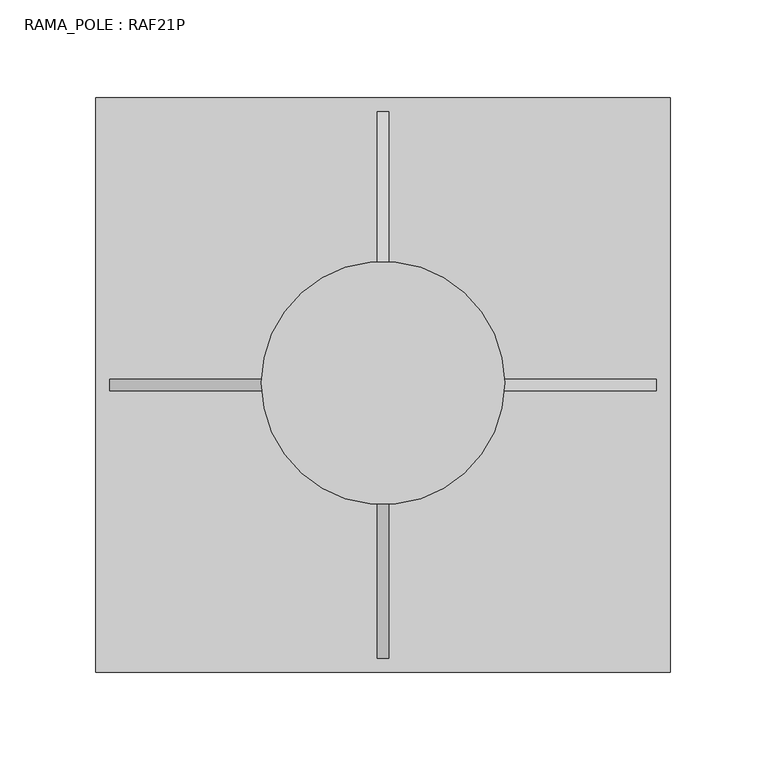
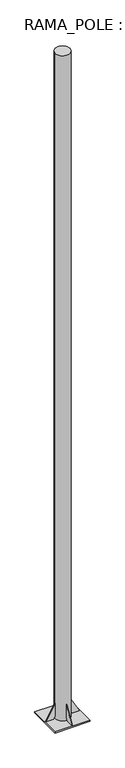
"""IFC4 building model written with IfcOpenShell, lengths in millimetres: light fixture geometry, RAMA_POLE : RAF21P."""

from ifc_helpers import new_model, si_unit, point, frame, origin, origin_2d, place, context, project, spatial, polyline, circle_curve, trimmed, segment, composite_curve, outline, extrude, source, transform, mapped, element, save


def rama_pole_raf21p_eb033af8(model_context):
    return source(origin(), model_context, "Body", "SweptSolid", [
        extrude(outline(polyline([(57.15, -40.0), (142.65, -190.0), (79.9181562, -190.0), (57.15, -150.0558663), (57.15, -40.0)])), frame((-3.0, 0.0, 0.0), z_axis=(1.0, 0.0, 0.0), x_axis=(0.0, 1.0, 0.0)), (0.0, 0.0, 1.0), 6.0),
        extrude(outline(polyline([(-57.15, -40.0), (-57.15, -150.0558663), (-79.9181562, -190.0), (-142.65, -190.0), (-57.15, -40.0)])), frame((-3.0, 0.0, 0.0), z_axis=(1.0, 0.0, 0.0), x_axis=(0.0, 1.0, 0.0)), (0.0, 0.0, 1.0), 6.0),
        extrude(outline(polyline([(-40.0, -57.15), (-190.0, -142.65), (-190.0, -79.9181562), (-150.0558663, -57.15), (-40.0, -57.15)])), frame((0.0, -3.0, 0.0), z_axis=(0.0, 1.0, 0.0), x_axis=(0.0, 0.0, 1.0)), (0.0, 0.0, 1.0), 6.0),
        extrude(outline(polyline([(-40.0, 57.15), (-150.0558663, 57.15), (-190.0, 79.9181562), (-190.0, 142.65), (-40.0, 57.15)])), frame((0.0, -3.0, 0.0), z_axis=(0.0, 1.0, 0.0), x_axis=(0.0, 0.0, 1.0)), (0.0, 0.0, 1.0), 6.0),
        extrude(outline(composite_curve([segment(trimmed(circle_curve(origin_2d(), 63.5), [point((-63.5, 0.0))], [point((63.5, 0.0))], False, "CARTESIAN"), True, "CONTINUOUS"), segment(trimmed(circle_curve(origin_2d(), 63.5), [point((63.5, 0.0))], [point((-63.5, 0.0))], False, "CARTESIAN"), True, "CONTINUOUS")], self_intersect=False)), frame((0.0, 0.0, -190.0), z_axis=(0.0, 0.0, 1.0), x_axis=(1.0, 0.0, 0.0)), (0.0, 0.0, 1.0), 5990.0),
        extrude(outline(polyline([(150.0, 150.0), (150.0, -150.0), (-150.0, -150.0), (-150.0, 150.0), (150.0, 150.0)])), frame((0.0, 0.0, -200.0), z_axis=(0.0, 0.0, 1.0), x_axis=(1.0, 0.0, 0.0)), (0.0, 0.0, 1.0), 10.0),
    ])


if __name__ == "__main__":
    model = new_model("IFC4")
    model_context = context("Model", 3, world=origin())
    ifc_project = project(units=[si_unit("LENGTHUNIT", "METRE", prefix="MILLI")], contexts=[model_context])
    site = spatial("IfcSite", under=ifc_project)
    building = spatial("IfcBuilding", under=site)
    placement = place(None, origin())
    rama_pole_raf21p_shape = rama_pole_raf21p_eb033af8(model_context)
    element("IfcLightFixture", 1, ObjectType="RAMA_POLE : RAF21P", at=placement, inside=building, context=model_context, shape_type="MappedRepresentation", body=[
        mapped(rama_pole_raf21p_shape, transform((0.0, 0.0, 0.0), x_axis=(1.0, 0.0, 0.0), y_axis=(0.0, 1.0, 0.0), z_axis=(0.0, 0.0, 1.0))),
    ])
    save(model, "model.ifc")
